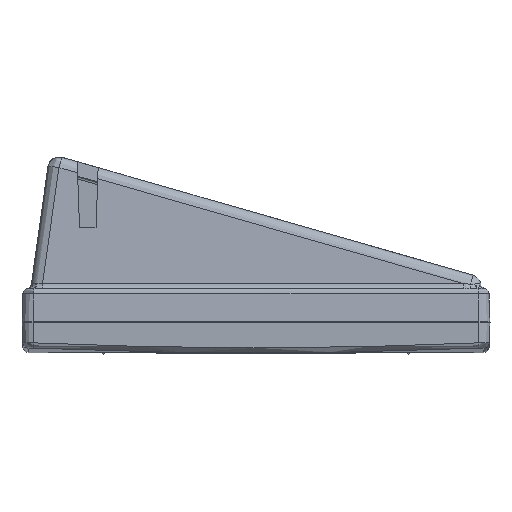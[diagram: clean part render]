
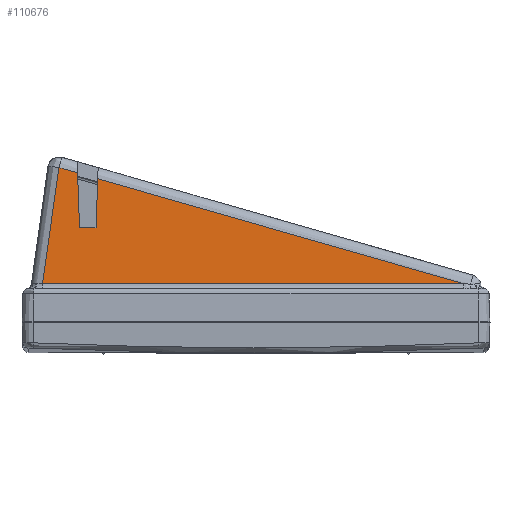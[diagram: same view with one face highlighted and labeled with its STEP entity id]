
A CAD part, left-side view. The second image highlights one B-rep face of the part: STEP entity #110676.
In plain terms, the highlighted planar face has unit normal (-0.999, 0, 0.035) as drawn and (-0.999, 0, -0.035) by its records, which use the part's own axes.
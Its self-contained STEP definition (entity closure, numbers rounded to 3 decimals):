
#15203=LINE('',#194037,#28236);
#15204=LINE('',#194039,#28237);
#15205=LINE('',#194041,#28238);
#15206=LINE('',#194043,#28239);
#15207=LINE('',#194045,#28240);
#15208=LINE('',#194047,#28241);
#15209=LINE('',#194048,#28242);
#28236=VECTOR('',#143648,1.);
#28237=VECTOR('',#143649,1.);
#28238=VECTOR('',#143650,21.313);
#28239=VECTOR('',#143651,76.524);
#28240=VECTOR('',#143652,1.);
#28241=VECTOR('',#143653,1.);
#28242=VECTOR('',#143654,1.);
#32926=PLANE('',#117545);
#37978=FACE_OUTER_BOUND('',#43445,.T.);
#43445=EDGE_LOOP('',(#99998,#99999,#100000,#100001,#100002,#100003,#100004));
#54772=VERTEX_POINT('',#194035);
#54773=VERTEX_POINT('',#194036);
#54774=VERTEX_POINT('',#194038);
#54775=VERTEX_POINT('',#194040);
#54776=VERTEX_POINT('',#194042);
#54777=VERTEX_POINT('',#194044);
#54778=VERTEX_POINT('',#194046);
#70305=EDGE_CURVE('',#54772,#54773,#15203,.T.);
#70306=EDGE_CURVE('',#54773,#54774,#15204,.T.);
#70307=EDGE_CURVE('',#54774,#54775,#15205,.T.);
#70308=EDGE_CURVE('',#54775,#54776,#15206,.T.);
#70309=EDGE_CURVE('',#54776,#54777,#15207,.T.);
#70310=EDGE_CURVE('',#54777,#54778,#15208,.T.);
#70311=EDGE_CURVE('',#54778,#54772,#15209,.T.);
#99998=ORIENTED_EDGE('',*,*,#70305,.T.);
#99999=ORIENTED_EDGE('',*,*,#70306,.T.);
#100000=ORIENTED_EDGE('',*,*,#70307,.T.);
#100001=ORIENTED_EDGE('',*,*,#70308,.T.);
#100002=ORIENTED_EDGE('',*,*,#70309,.T.);
#100003=ORIENTED_EDGE('',*,*,#70310,.T.);
#100004=ORIENTED_EDGE('',*,*,#70311,.T.);
#110676=ADVANCED_FACE('',(#37978),#32926,.T.);
#117545=AXIS2_PLACEMENT_3D('',#194034,#143646,#143647);
#143646=DIRECTION('center_axis',(-0.999,0.,-0.035));
#143647=DIRECTION('ref_axis',(-0.035,0.,0.999));
#143648=DIRECTION('',(0.035,-0.035,-0.999));
#143649=DIRECTION('',(0.01,-0.961,-0.276));
#143650=DIRECTION('',(-0.035,-0.139,0.99));
#143651=DIRECTION('',(0.,1.,0.));
#143652=DIRECTION('',(0.01,-0.961,-0.276));
#143653=DIRECTION('',(-0.035,-0.035,0.999));
#143654=DIRECTION('',(0.,-1.,0.));
#194034=CARTESIAN_POINT('Origin',(-40.884,-0.503,-11.468));
#194035=CARTESIAN_POINT('',(-40.516,-32.056,-22.));
#194036=CARTESIAN_POINT('',(-40.166,-32.406,-32.009));
#194037=CARTESIAN_POINT('',(-40.516,-32.056,-22.));
#194038=CARTESIAN_POINT('',(-40.132,-35.801,-32.983));
#194039=CARTESIAN_POINT('',(-40.166,-32.406,-32.009));
#194040=CARTESIAN_POINT('',(-40.869,-38.765,-11.89));
#194041=CARTESIAN_POINT('',(-40.132,-35.801,-32.983));
#194042=CARTESIAN_POINT('',(-40.869,37.759,-11.89));
#194043=CARTESIAN_POINT('',(-40.869,-38.765,-11.89));
#194044=CARTESIAN_POINT('',(-40.203,-28.743,-30.959));
#194045=CARTESIAN_POINT('',(-40.869,37.759,-11.89));
#194046=CARTESIAN_POINT('',(-40.516,-29.056,-22.));
#194047=CARTESIAN_POINT('',(-40.203,-28.743,-30.959));
#194048=CARTESIAN_POINT('',(-40.516,-29.056,-22.));
